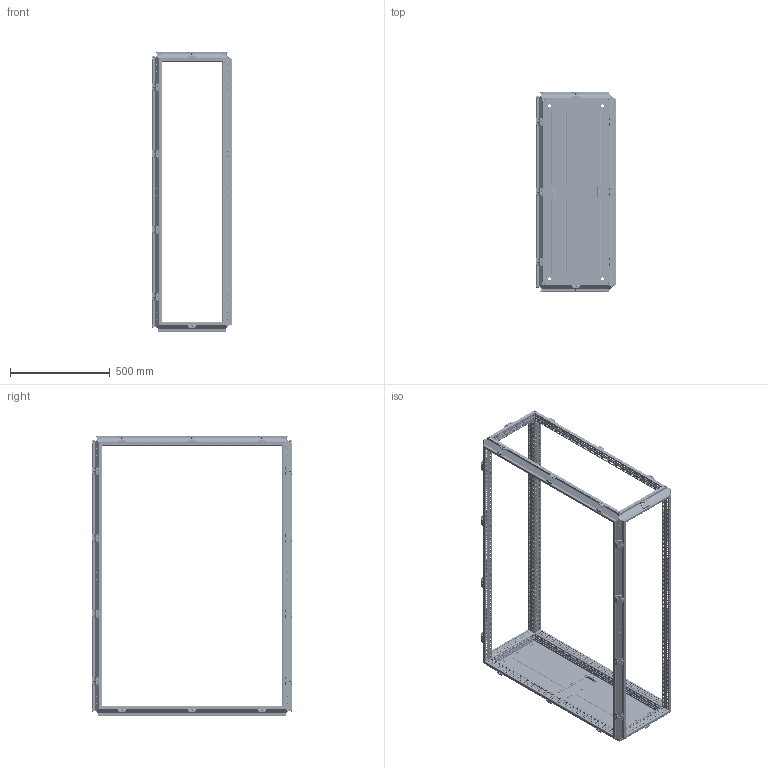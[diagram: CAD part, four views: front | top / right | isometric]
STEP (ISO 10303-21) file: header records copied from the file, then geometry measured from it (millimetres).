
FILE_DESCRIPTION(('STEP AP203'), '1');
FILE_NAME('3000 忺謤僔 捘', '', ('UNSPECIFIED'), ('UNSPECIFIED'), 'C3D Converter', 'C3D Toolkit', '');
FILE_SCHEMA(('CONFIG_CONTROL_DESIGN'));
Length unit declared in the file: millimetre
Products named in the file (13): 3000.140.100.40 СБ; 3000; 3007.175; 3007.75; 3006; 3009.04; 3009.04.01; 3009.04.2; 3009.04.01.2
Assembly tree (138 placements, depth 3):
  3000.140.100.40 СБ
    3000
    (unnamed)  x88
    3007.175  x2
    (unnamed)  x14
    3007.75  x2
    3006
    3009.04  x8
      3009.04.01
      (unnamed)
      (unnamed)
    3009.04.2  x13
      3009.04.01.2
      (unnamed)
      (unnamed)
Bounding box: 397 x 997 x 1398.5 mm (x, y, z)
Volume: 3312320.2 mm3; surface area: 4368725.9 mm2
Topology: 221 solids, 221 shells, 15243 faces, 42403 edges, 27928 vertices
Faces by surface type: plane 10461, cylinder 3814, cone 624, torus 244, bspline 100
Full cylindrical faces by diameter (mm): 4.134 x122, 4.5 x1606, 4.8 x14, 5 x132, 5.8 x34, 6.8 x176, 7 x88, 7.5 x42, 8 x88, 9.2 x42, 10.106 x8, 14 x4
Entity records: 335098 total; most frequent: CARTESIAN_POINT 62691, ORIENTED_EDGE 53590, DIRECTION 50857, EDGE_CURVE 26795, LINE 21847, VECTOR 21847, VERTEX_POINT 18822, EDGE_LOOP 18115
